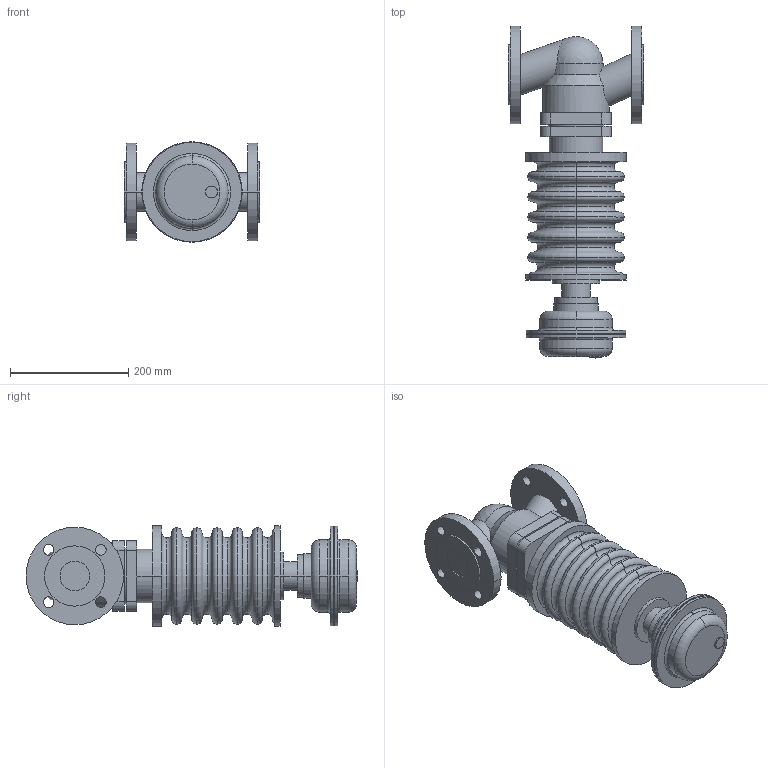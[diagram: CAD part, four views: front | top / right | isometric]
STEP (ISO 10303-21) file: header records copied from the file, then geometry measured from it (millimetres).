
FILE_DESCRIPTION( ( '' ), '1' );
FILE_NAME( 'F:/DE-SHS/TB/OR/04-Sonstiges/daten/files_3d/PREDU/PREDU-PN16/c000005318.stp', '2014-04-17T09:51:07', ( '' ), ( '' ), ' ', ' ', ' ' );
FILE_SCHEMA( ( 'CONFIG_CONTROL_DESIGN' ) );
Length unit declared in the file: millimetre
Products named in the file (2): 1; 2
Bounding box: 230 x 561.5 x 170 mm (x, y, z)
Volume: 7701797.8 mm3; surface area: 495478.6 mm2
Topology: 2 solids, 2 shells, 179 faces, 426 edges, 274 vertices
Faces by surface type: cylinder 72, torus 54, plane 50, cone 2, sphere 1
Entity records: 5884 total; most frequent: CARTESIAN_POINT 1380, DIRECTION 1053, ORIENTED_EDGE 848, AXIS2_PLACEMENT_3D 462, EDGE_CURVE 424, CIRCLE 275, VERTEX_POINT 274, EDGE_LOOP 220
